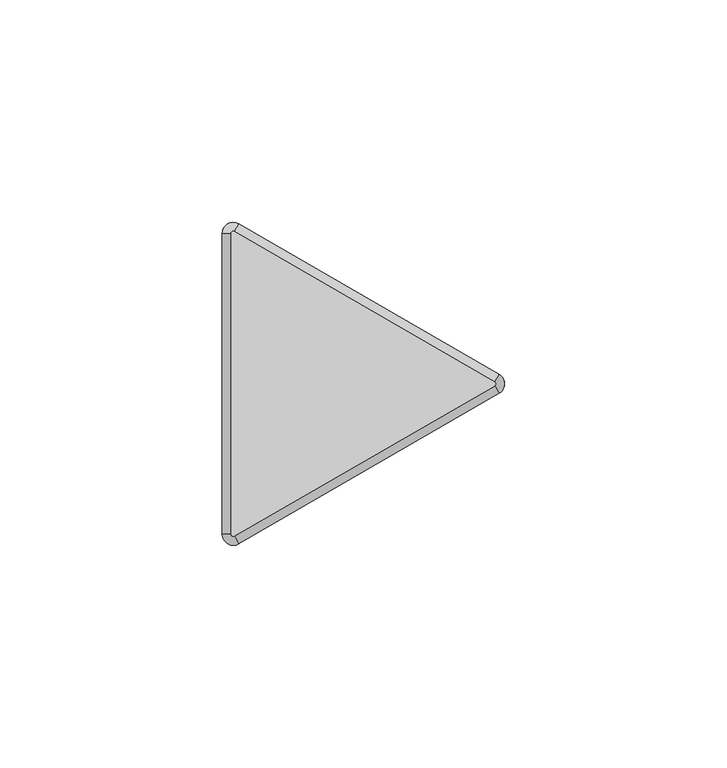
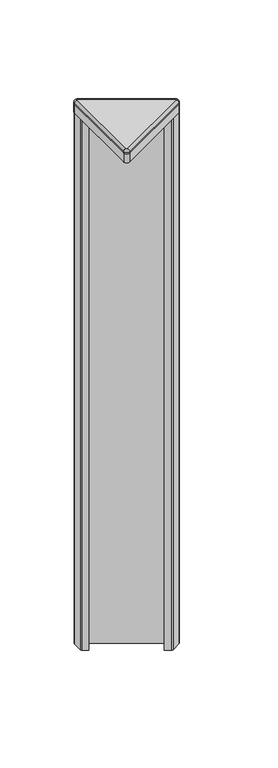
"""IFC4 building model written with IfcOpenShell, lengths in millimetres: furniture geometry, Steelcase - Answer Solution - Panel - 120deg Change-of-Height Trim - Thin : V Corner - 18H for 48H App."""

import ifcopenshell
import ifcopenshell.guid

model = None  # the IFC model being written
_history = None  # IfcOwnerHistory: only IFC2X3 demands one
_inside = {}  # id of a spatial element -> (the spatial element, [elements in it])
_under = {}  # id of a project, library or spatial element -> (it, [spatial elements below it])
_declared = {}  # id of a project -> (the project, [libraries it declares])
_typed = {}  # id of a type object -> (the type object, [elements of that type])
_made_of = {}  # id of a material, layer set ... -> (it, [elements and type objects made of it])


def new_model(schema):
    """Start an empty IFC model of exactly this schema.

    Asked for "IFC4X3", IfcOpenShell would pick the latest addendum, in which some entities
    have other attributes; the version numbers below select the first issue.
    IFC2X3 requires an IfcOwnerHistory on every rooted entity: one is made here for all.
    """
    global model, _history
    if schema == "IFC4X3":
        model = ifcopenshell.file(schema_version=(4, 3, 0, 0))
    else:
        model = ifcopenshell.file(schema=schema)
    _inside.clear()
    _under.clear()
    _declared.clear()
    _typed.clear()
    _made_of.clear()
    _history = None
    if model.schema == "IFC2X3":
        org = make("IfcOrganization", Name="unknown")
        user = make(
            "IfcPersonAndOrganization",
            ThePerson=make("IfcPerson", FamilyName="unknown"),
            TheOrganization=org,
        )
        app = make(
            "IfcApplication",
            ApplicationDeveloper=org,
            Version="unknown",
            ApplicationFullName="unknown",
            ApplicationIdentifier="unknown",
        )
        _history = make(
            "IfcOwnerHistory",
            OwningUser=user,
            OwningApplication=app,
            ChangeAction="ADDED",
            CreationDate=0,
        )
    return model


def make(cls, **values):
    """One entity of the class cls with the attributes given. An attribute that is None is left unset."""
    return model.create_entity(
        cls, **{name: value for name, value in values.items() if value is not None}
    )


def rooted(cls, **values):
    """An entity with a GlobalId (a new one), such as an element, a storey or a relation."""
    return make(cls, GlobalId=ifcopenshell.guid.new(), OwnerHistory=_history, **values)


def si_unit(unit_type, name, prefix=None):
    """IfcSIUnit, for example si_unit("LENGTHUNIT", "METRE", prefix="MILLI")."""
    return make("IfcSIUnit", UnitType=unit_type, Prefix=prefix, Name=name)


def assignment(units):
    """IfcUnitAssignment: the units of a project."""
    return None if units is None else make("IfcUnitAssignment", Units=units)


def point(xyz):
    """IfcCartesianPoint."""
    return None if xyz is None else make("IfcCartesianPoint", Coordinates=xyz)


def direction(xyz):
    """IfcDirection."""
    return None if xyz is None else make("IfcDirection", DirectionRatios=xyz)


def frame(location, z_axis=None, x_axis=None):
    """IfcAxis2Placement3D, a coordinate frame: its origin and axes. An axis left out is left unset."""
    return make(
        "IfcAxis2Placement3D",
        Location=point(location),
        Axis=direction(z_axis),
        RefDirection=direction(x_axis),
    )


def frame_2d(location, x_axis=None):
    """IfcAxis2Placement2D, a coordinate frame in the plane: its origin and x axis."""
    return make(
        "IfcAxis2Placement2D", Location=point(location), RefDirection=direction(x_axis)
    )


def origin():
    """The frame at (0, 0, 0) with its axes left unset."""
    return frame((0.0, 0.0, 0.0))


def place(relative_to, where):
    """IfcLocalPlacement: puts the frame where relative to a parent placement (None: the world)."""
    return make(
        "IfcLocalPlacement", PlacementRelTo=relative_to, RelativePlacement=where
    )


def context(
    kind, dimensions, precision=None, world=None, true_north=None, identifier=None
):
    """IfcGeometricRepresentationContext, for example the 3D "Model" context."""
    return make(
        "IfcGeometricRepresentationContext",
        ContextIdentifier=identifier,
        ContextType=kind,
        CoordinateSpaceDimension=dimensions,
        Precision=precision,
        WorldCoordinateSystem=world,
        TrueNorth=true_north,
    )


def project(units=None, contexts=None):
    """IfcProject with its units and contexts."""
    return rooted(
        "IfcProject",
        Name="project",
        RepresentationContexts=contexts,
        UnitsInContext=assignment(units),
    )


def spatial(cls, under=None, at=None, **own):
    """A site, building, storey or space (cls), placed at a placement, below another one or the project."""
    s = rooted(cls, ObjectPlacement=at, **own)
    if under is not None:
        _under.setdefault(under.id(), (under, []))[1].append(s)
    return s


def polyline(points):
    """IfcPolyline through the points."""
    return make("IfcPolyline", Points=[point(p) for p in points])


def circle_curve(where, radius):
    """IfcCircle in the frame where."""
    return make("IfcCircle", Position=where, Radius=radius)


def ellipse_curve(where, semi_axis1, semi_axis2):
    """IfcEllipse in the frame where."""
    return make(
        "IfcEllipse", Position=where, SemiAxis1=semi_axis1, SemiAxis2=semi_axis2
    )


def trimmed(basis, trim1, trim2, sense, master):
    """IfcTrimmedCurve: the piece of a basis curve between two trims."""
    return make(
        "IfcTrimmedCurve",
        BasisCurve=basis,
        Trim1=trim1,
        Trim2=trim2,
        SenseAgreement=sense,
        MasterRepresentation=master,
    )


def segment(curve, same_sense, transition):
    """IfcCompositeCurveSegment."""
    return make(
        "IfcCompositeCurveSegment",
        Transition=transition,
        SameSense=same_sense,
        ParentCurve=curve,
    )


def composite_curve(segments, self_intersect=None):
    """IfcCompositeCurve: segments joined end to end."""
    return make("IfcCompositeCurve", Segments=segments, SelfIntersect=self_intersect)


def outline(outer, holes=None, kind="AREA"):
    """IfcArbitraryClosedProfileDef: a profile drawn as a closed curve; with holes, ...WithVoids."""
    if holes is None:
        return make("IfcArbitraryClosedProfileDef", ProfileType=kind, OuterCurve=outer)
    return make(
        "IfcArbitraryProfileDefWithVoids",
        ProfileType=kind,
        OuterCurve=outer,
        InnerCurves=holes,
    )


def extrude(swept, where, along, depth):
    """IfcExtrudedAreaSolid: the profile swept, set in the frame where, extruded along a direction by depth."""
    return make(
        "IfcExtrudedAreaSolid",
        SweptArea=swept,
        Position=where,
        ExtrudedDirection=direction(along),
        Depth=depth,
    )


def shape(context_of_items, identifier, shape_type, items):
    """IfcShapeRepresentation: the items that make up one representation, for example the "Body"."""
    return make(
        "IfcShapeRepresentation",
        ContextOfItems=context_of_items,
        RepresentationIdentifier=identifier,
        RepresentationType=shape_type,
        Items=items,
    )


def source(mapping_origin, context_of_items, identifier, shape_type, items):
    """IfcRepresentationMap: a shape defined once, which mapped items show again and again."""
    return make(
        "IfcRepresentationMap",
        MappingOrigin=mapping_origin,
        MappedRepresentation=shape(context_of_items, identifier, shape_type, items),
    )


def transform(
    local_origin,
    x_axis=None,
    y_axis=None,
    z_axis=None,
    scale=None,
    scale2=None,
    scale3=None,
    uniform=True,
):
    """IfcCartesianTransformationOperator3D, or its non-uniform kind. x_axis, y_axis, z_axis: its Axis1, 2, 3."""
    if uniform:
        return make(
            "IfcCartesianTransformationOperator3D",
            Axis1=direction(x_axis),
            Axis2=direction(y_axis),
            LocalOrigin=point(local_origin),
            Scale=scale,
            Axis3=direction(z_axis),
        )
    return make(
        "IfcCartesianTransformationOperator3DnonUniform",
        Axis1=direction(x_axis),
        Axis2=direction(y_axis),
        LocalOrigin=point(local_origin),
        Scale=scale,
        Axis3=direction(z_axis),
        Scale2=scale2,
        Scale3=scale3,
    )


def mapped(mapping_source, mapping_target):
    """IfcMappedItem: shows the shape of a source again, moved by a transform."""
    return make(
        "IfcMappedItem", MappingSource=mapping_source, MappingTarget=mapping_target
    )


def made_of(thing, what):
    """Note that an element or type object is made of a material, layer set ...; save() writes the relation."""
    if what is not None:
        _made_of.setdefault(what.id(), (what, []))[1].append(thing)
    return thing


def element(
    cls,
    number,
    at=None,
    inside=None,
    cuts=None,
    type_object=None,
    material=None,
    context=None,
    identifier="Body",
    shape_type=None,
    held_by="IfcProductDefinitionShape",
    body=None,
    shapes=None,
    **own,
):
    """One element of the class cls, such as IfcWall. Its Tag is "e" and its number.

    at: its placement. inside: the storey or other place that contains it. cuts: it is an
    opening in that element (IfcRelVoidsElement). A single representation is given by context,
    identifier, shape_type and body (its items); several are given by shapes. held_by: the class
    of the entity that holds the representations. save() writes the other relations.
    """
    e = rooted(cls, Tag="e%d" % number, ObjectPlacement=at, **own)
    if body is not None:
        shapes = [shape(context, identifier, shape_type, body)]
    if shapes is not None:
        e.Representation = make(held_by, Representations=shapes)
    if inside is not None:
        _inside.setdefault(inside.id(), (inside, []))[1].append(e)
    if cuts is not None:
        rooted(
            "IfcRelVoidsElement", RelatingBuildingElement=cuts, RelatedOpeningElement=e
        )
    if type_object is not None:
        _typed.setdefault(type_object.id(), (type_object, []))[1].append(e)
    return made_of(e, material)


def aggregate(whole, parts):
    """IfcRelAggregates: a whole, such as a stair, and the parts it consists of."""
    return rooted("IfcRelAggregates", RelatingObject=whole, RelatedObjects=parts)


def save(model, path):
    """Write the relations noted so far, then the file.

    IfcRelAggregates (storeys below a building ...), IfcRelContainedInSpatialStructure (elements
    in a storey), IfcRelDefinesByType, IfcRelAssociatesMaterial and IfcRelDeclares: one each for
    every whole, place, type object, material and project.
    """
    for whole, parts in _under.values():
        aggregate(whole, parts)
    for where, things in _inside.values():
        rooted(
            "IfcRelContainedInSpatialStructure",
            RelatedElements=things,
            RelatingStructure=where,
        )
    for kind, things in _typed.values():
        rooted("IfcRelDefinesByType", RelatedObjects=things, RelatingType=kind)
    for what, things in _made_of.values():
        rooted("IfcRelAssociatesMaterial", RelatedObjects=things, RelatingMaterial=what)
    for by, libraries in _declared.values():
        rooted("IfcRelDeclares", RelatingContext=by, RelatedDefinitions=libraries)
    model.write(path)


def plane_surface(at):
    """IfcPlane: the flat surface through the origin of the frame at, square to its z axis."""
    return make("IfcPlane", Position=at)


def cylinder_surface(at, radius):
    """IfcCylindricalSurface: all points at the distance radius from the z axis of the frame at."""
    return make("IfcCylindricalSurface", Position=at, Radius=radius)


def revolved_surface(curve, axis_point, axis_direction):
    """IfcSurfaceOfRevolution: the curve turned about the line through axis_point along axis_direction."""
    return make(
        "IfcSurfaceOfRevolution",
        SweptCurve=make("IfcArbitraryOpenProfileDef", ProfileType="CURVE", Curve=curve),
        AxisPosition=make("IfcAxis1Placement", Location=point(axis_point), Axis=direction(axis_direction)),
    )


def advanced_brep(points, edges, surfaces, faces):
    """IfcAdvancedBrep: a solid bounded by faces that lie on surfaces and meet in shared edges.

    An edge is (start, end): straight between two places in points (the first is 0);
    or (start, end, curve); or (start, end, curve, False) where it runs against its curve.
    A face is (place in surfaces, loops), or (place, loops, False) where it looks against
    its surface's normal. A loop lists edges by number (the first is 1), with a minus sign
    where the edge is run from its end to its start. The first loop is the outer one.
    """
    corners = [point(p) for p in points]
    vertices = [make("IfcVertexPoint", VertexGeometry=c) for c in corners]
    made = []
    for start, end, *more in edges:
        made.append(
            make(
                "IfcEdgeCurve",
                EdgeStart=vertices[start],
                EdgeEnd=vertices[end],
                EdgeGeometry=more[0] if more else make("IfcPolyline", Points=[corners[start], corners[end]]),
                SameSense=more[1] if len(more) > 1 else True,
            )
        )
    hull = []
    for where, loops, *sense in faces:
        bounds = []
        for j, loop in enumerate(loops):
            ring = [make("IfcOrientedEdge", EdgeElement=made[abs(k) - 1], Orientation=k > 0) for k in loop]
            bounds.append(
                make(
                    "IfcFaceOuterBound" if j == 0 else "IfcFaceBound",
                    Bound=make("IfcEdgeLoop", EdgeList=ring),
                    Orientation=True,
                )
            )
        hull.append(make("IfcAdvancedFace", Bounds=bounds, FaceSurface=surfaces[where], SameSense=sense[0] if sense else True))
    return make("IfcAdvancedBrep", Outer=make("IfcClosedShell", CfsFaces=hull))


def furniture_9107f6f2(model_context):
    return source(origin(), model_context, "Body", "SolidModel", [
        advanced_brep(
        [(-10.518645, -37.3335529, 1223.6628978), (-14.2052101, -35.2051135, 1223.6628978), (-14.2052101, -35.2051135, 1222.7164663), (-10.518645, -37.3335529, 1222.7164663), (-11.46175, -35.7000471, 1225.55), (-12.319, -35.2051135, 1225.55), (-11.46175, -35.7000471, 1222.7164663), (-12.319, -35.2051135, 1222.7164663), (48.0429908, -3.5229767, 1222.7164663), (48.0429908, -3.5229767, 1223.6628978), (47.0998858, -1.8894709, 1225.55), (47.0998858, -1.8894709, 1222.7164663), (48.0429908, 0.733902, 1223.6628978), (48.0429908, 0.733902, 1222.7164663), (47.0998858, -0.8996038, 1225.55), (47.0998858, -0.8996038, 1222.7164663), (-10.518645, 34.5444782, 1222.7164663), (-14.2052101, 32.4160388, 1222.7164663), (-11.46175, 32.9109723, 1222.7164663), (-12.319, 32.4160388, 1222.7164663), (-10.518645, 34.5444782, 1223.6628978), (-11.46175, 32.9109723, 1225.55), (-14.2052101, 32.4160388, 1223.6628978), (-12.319, 32.4160388, 1225.55)],
        [
            (0, 1, circle_curve(frame((-11.7475, -35.2051135, 1223.6628978), z_axis=(0.0, 0.0, -1.0), x_axis=(-1.0, 0.0, 0.0)), 2.4577101)),
            (1, 2),
            (2, 3, circle_curve(frame((-11.7475, -35.2051135, 1222.7164663), z_axis=(0.0, 0.0, 1.0), x_axis=(-1.0, 0.0, 0.0)), 2.4577101)),
            (3, 0),
            (4, 5, circle_curve(frame((-11.7475, -35.2051135, 1225.55), z_axis=(0.0, 0.0, -1.0), x_axis=(-1.0, 0.0, 0.0)), 0.5715)),
            (5, 1, circle_curve(frame((-12.3181076, -35.2051135, 1223.6628978), z_axis=(0.0, -1.0, 0.0), x_axis=(1.0, 0.0, 0.0)), 1.8871024)),
            (0, 4, circle_curve(frame((-11.4621962, -35.6992743, 1223.6628978), z_axis=(-0.8660254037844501, -0.49999999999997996, 0.0), x_axis=(-0.49999999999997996, 0.8660254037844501, 0.0)), 1.8871024)),
            (6, 7, circle_curve(frame((-11.7475, -35.2051135, 1222.7164663), z_axis=(0.0, 0.0, -1.0), x_axis=(-1.0, 0.0, 0.0)), 0.5715)),
            (7, 5),
            (4, 6),
            (3, 8),
            (8, 9),
            (9, 0),
            (9, 10, circle_curve(frame((47.0994396, -1.8886981, 1223.6628978), z_axis=(-0.8660254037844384, -0.5000000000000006, 0.0), x_axis=(-0.5000000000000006, 0.8660254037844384, 0.0)), 1.8871024)),
            (10, 4),
            (10, 11),
            (11, 6),
            (12, 9, circle_curve(frame((46.8141358, -1.3945374, 1223.6628978), z_axis=(0.0, 0.0, -1.0), x_axis=(0.4999999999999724, -0.8660254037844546, 0.0)), 2.4577101)),
            (8, 13, circle_curve(frame((46.8141358, -1.3945374, 1222.7164663), z_axis=(0.0, 0.0, 1.0), x_axis=(0.4999999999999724, -0.8660254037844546, 0.0)), 2.4577101)),
            (13, 12),
            (14, 10, circle_curve(frame((46.8141358, -1.3945374, 1225.55), z_axis=(0.0, 0.0, -1.0), x_axis=(0.4999999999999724, -0.8660254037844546, 0.0)), 0.5715)),
            (12, 14, circle_curve(frame((47.0994396, -0.9003766, 1223.6628978), z_axis=(0.8660254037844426, -0.49999999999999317, 0.0), x_axis=(-0.49999999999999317, -0.8660254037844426, 0.0)), 1.8871024)),
            (15, 11, circle_curve(frame((46.8141358, -1.3945374, 1222.7164663), z_axis=(0.0, 0.0, -1.0), x_axis=(0.4999999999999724, -0.8660254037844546, 0.0)), 0.5715)),
            (14, 15),
            (16, 13),
            (2, 17),
            (17, 16, circle_curve(frame((-11.7475, 32.4160388, 1222.7164663), z_axis=(0.0, 0.0, -1.0), x_axis=(0.500000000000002, 0.8660254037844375, 0.0)), 2.4577101)),
            (15, 18),
            (18, 19, circle_curve(frame((-11.7475, 32.4160388, 1222.7164663), z_axis=(0.0, 0.0, 1.0), x_axis=(0.500000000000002, 0.8660254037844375, 0.0)), 0.5715)),
            (19, 7),
            (16, 20),
            (20, 12),
            (20, 21, circle_curve(frame((-11.4621962, 32.9101995, 1223.6628978), z_axis=(0.8660254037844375, -0.5000000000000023, 0.0), x_axis=(-0.5000000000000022, -0.8660254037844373, 0.0)), 1.8871024)),
            (21, 14),
            (21, 18),
            (22, 20, circle_curve(frame((-11.7475, 32.4160388, 1223.6628978), z_axis=(0.0, 0.0, -1.0), x_axis=(0.500000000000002, 0.8660254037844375, 0.0)), 2.4577101)),
            (17, 22),
            (23, 21, circle_curve(frame((-11.7475, 32.4160388, 1225.55), z_axis=(0.0, 0.0, -1.0), x_axis=(0.500000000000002, 0.8660254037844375, 0.0)), 0.5715)),
            (22, 23, circle_curve(frame((-12.3181076, 32.4160388, 1223.6628978), z_axis=(0.0, 1.0, 0.0), x_axis=(1.0, 0.0, 0.0)), 1.8871024)),
            (23, 19),
            (1, 22),
            (5, 23),
        ],
        [
            cylinder_surface(frame((-11.7475, -35.2051135, 0.0), z_axis=(0.0, 0.0, 1.0), x_axis=(-1.0, 0.0, 0.0)), 2.4577101),
            revolved_surface(trimmed(ellipse_curve(frame((-12.3181076, -35.2051135, 1223.6628978), z_axis=(0.0, 1.0, 0.0), x_axis=(1.0, 0.0, 0.0)), 1.8871024, 1.8871024), [point((-14.2052101, -35.2051135, 1223.6628978))], [point((-12.319, -35.2051135, 1225.55))], True, "CARTESIAN"), (-11.7475, -35.2051135, 0.0), (0.0, 0.0, 1.0)),
            revolved_surface(polyline([(-12.319, -35.2051135, 1225.55), (-12.319, -35.2051135, 1222.7164663)]), (-11.7475, -35.2051135, 0.0), (0.0, 0.0, 1.0)),
            plane_surface(frame((-10.518645, -37.3335529, 1222.7164663), z_axis=(0.500000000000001, -0.8660254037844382, 0.0), x_axis=(0.8660254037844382, 0.500000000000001, 0.0))),
            cylinder_surface(frame((-11.4621962, -35.6992743, 1223.6628978), z_axis=(-0.8660254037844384, -0.5000000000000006, 0.0), x_axis=(-0.5000000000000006, 0.8660254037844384, 0.0)), 1.8871024),
            plane_surface(frame((-11.46175, -35.7000471, 1225.55), z_axis=(-0.500000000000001, 0.8660254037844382, 0.0), x_axis=(0.8660254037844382, 0.500000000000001, 0.0))),
            cylinder_surface(frame((46.8141358, -1.3945374, 0.0), z_axis=(0.0, 0.0, 1.0), x_axis=(0.4999999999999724, -0.8660254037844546, 0.0)), 2.4577101),
            revolved_surface(trimmed(ellipse_curve(frame((47.0994396, -1.8886981, 1223.6628978), z_axis=(-0.8660254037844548, -0.499999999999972, 0.0), x_axis=(-0.499999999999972, 0.8660254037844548, 0.0)), 1.8871024, 1.8871024), [point((48.0429908, -3.5229767, 1223.6628978))], [point((47.0998858, -1.8894709, 1225.55))], True, "CARTESIAN"), (46.8141358, -1.3945374, 0.0), (0.0, 0.0, 1.0)),
            revolved_surface(polyline([(47.09988579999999, -1.8894709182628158, 1225.55), (47.09988579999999, -1.8894709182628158, 1222.7164663)]), (46.8141358, -1.3945374, 0.0), (0.0, 0.0, 1.0)),
            plane_surface(frame((47.0998858, -0.8996038, 1222.7164663), z_axis=(0.0, 0.0, -1.0), x_axis=(-0.866025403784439, 0.49999999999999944, 0.0))),
            plane_surface(frame((48.0429908, 0.733902, 1222.7164663), z_axis=(0.5000000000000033, 0.8660254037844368, 0.0), x_axis=(-0.8660254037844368, 0.5000000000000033, 0.0))),
            cylinder_surface(frame((47.0994396, -0.9003766, 1223.6628978), z_axis=(0.8660254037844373, -0.5000000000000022, 0.0), x_axis=(-0.5000000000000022, -0.8660254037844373, 0.0)), 1.8871024),
            plane_surface(frame((47.0998858, -0.8996038, 1225.55), z_axis=(-0.49999999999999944, -0.866025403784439, 0.0), x_axis=(-0.866025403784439, 0.49999999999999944, 0.0))),
            cylinder_surface(frame((-11.7475, 32.4160388, 0.0), z_axis=(0.0, 0.0, 1.0), x_axis=(0.500000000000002, 0.8660254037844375, 0.0)), 2.4577101),
            revolved_surface(trimmed(ellipse_curve(frame((-11.4621962, 32.9101995, 1223.6628978), z_axis=(0.866025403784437, -0.5000000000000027, 0.0), x_axis=(-0.5000000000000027, -0.866025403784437, 0.0)), 1.8871024, 1.8871024), [point((-10.518645, 34.5444782, 1223.6628978))], [point((-11.46175, 32.9109723, 1225.55))], True, "CARTESIAN"), (-11.7475, 32.4160388, 0.0), (0.0, 0.0, 1.0)),
            revolved_surface(polyline([(-11.461749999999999, 32.91097231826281, 1225.55), (-11.461749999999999, 32.91097231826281, 1222.7164663)]), (-11.7475, 32.4160388, 0.0), (0.0, 0.0, 1.0)),
            plane_surface(frame((-14.2052101, 32.4160388, 1222.7164663), z_axis=(-1.0, 0.0, 0.0), x_axis=(0.0, -1.0, 0.0))),
            cylinder_surface(frame((-12.3181076, 32.4160388, 1223.6628978), z_axis=(0.0, 1.0, 0.0), x_axis=(1.0, 0.0, 0.0)), 1.8871024),
            plane_surface(frame((-12.319, 32.4160388, 1225.55), z_axis=(1.0, 0.0, 0.0), x_axis=(0.0, -1.0, 0.0))),
        ],
        [
            (0, [[1, 2, 3, 4]]),
            (1, [[5, 6, -1, 7]]),
            (2, [[8, 9, -5, 10]]),
            (3, [[-4, 11, 12, 13]]),
            (4, [[-7, -13, 14, 15]]),
            (5, [[-10, -15, 16, 17]]),
            (6, [[18, -12, 19, 20]]),
            (7, [[21, -14, -18, 22]]),
            (8, [[23, -16, -21, 24]]),
            (9, [[25, -19, -11, -3, 26, 27], [-8, -17, -23, 28, 29, 30]]),
            (10, [[-20, -25, 31, 32]]),
            (11, [[-22, -32, 33, 34]]),
            (12, [[-24, -34, 35, -28]]),
            (13, [[36, -31, -27, 37]]),
            (14, [[38, -33, -36, 39]]),
            (15, [[-29, -35, -38, 40]]),
            (16, [[-37, -26, -2, 41]]),
            (17, [[-39, -41, -6, 42]]),
            (18, [[-40, -42, -9, -30]]),
        ],
    ),
        extrude(outline(composite_curve([segment(trimmed(circle_curve(frame_2d((46.8261011, -1.3945374)), 0.5655173), [point((47.1088598, -0.904785))], [point((47.1088598, -1.8842897))], False, "CARTESIAN"), True, "CONTINUOUS"), segment(polyline([(47.1088598, -1.8842897), (-11.4505119, -35.6935587)]), True, "CONTINUOUS"), segment(trimmed(circle_curve(frame_2d((-11.7400079, -35.1921369)), 0.5789921), [point((-11.4505119, -35.6935587))], [point((-12.319, -35.1921369))], False, "CARTESIAN"), True, "CONTINUOUS"), segment(polyline([(-12.319, -35.1921369), (-12.319, 32.3985888)]), True, "CONTINUOUS"), segment(trimmed(circle_curve(frame_2d((-11.7374252, 32.3985888)), 0.5815748), [point((-12.319, 32.3985888))], [point((-11.4466378, 32.9022473))], False, "CARTESIAN"), True, "CONTINUOUS"), segment(polyline([(-11.4466378, 32.9022473), (47.1088598, -0.904785)]), True, "CONTINUOUS")], self_intersect=False)), frame((0.0, 0.0, 1222.7164663), z_axis=(0.0, 0.0, 1.0), x_axis=(1.0, 0.0, 0.0)), (0.0, 0.0, 1.0), 2.8335337),
        extrude(outline(composite_curve([segment(trimmed(circle_curve(frame_2d((47.9608454, -1.3945374)), 1.2935425), [point((48.6076166, -0.2742967))], [point((48.6076166, -2.514778))], False, "CARTESIAN"), True, "CONTINUOUS"), segment(polyline([(48.6076166, -2.514778), (41.722656, -6.4898119)]), True, "CONTINUOUS"), segment(trimmed(circle_curve(frame_2d((41.0991304, -5.4098338)), 1.2470513), [point((41.722656, -6.4898119))], [point((40.4756048, -6.4898119))], False, "CARTESIAN"), True, "CONTINUOUS"), segment(polyline([(40.4756048, -6.4898119), (36.3239304, -4.0928416), (36.7811304, -3.300948), (41.0991304, -5.7939464), (47.3502407, -2.1848662)]), True, "CONTINUOUS"), segment(trimmed(circle_curve(frame_2d((46.8939441, -1.3945374)), 0.9125932), [point((47.3502407, -2.1848662))], [point((47.3502407, -0.6042085))], True, "CARTESIAN"), True, "CONTINUOUS"), segment(polyline([(47.3502407, -0.6042085), (-11.3312768, 33.2755814)]), True, "CONTINUOUS"), segment(trimmed(circle_curve(frame_2d((-11.7875179, 32.4853487)), 0.9124821), [point((-11.3312768, 33.2755814))], [point((-12.7, 32.4853487))], True, "CARTESIAN"), True, "CONTINUOUS"), segment(polyline([(-12.7, 32.4853487), (-12.7, 25.266996), (-8.382, 22.7739975), (-8.8392, 21.9821039), (-12.9583282, 24.3602837)]), True, "CONTINUOUS"), segment(trimmed(circle_curve(frame_2d((-12.3022565, 25.4966333)), 1.3121435), [point((-12.9583282, 24.3602837))], [point((-13.6144, 25.4966333))], False, "CARTESIAN"), True, "CONTINUOUS"), segment(polyline([(-13.6144, 25.4966333), (-13.6144, 33.3957138)]), True, "CONTINUOUS"), segment(trimmed(circle_curve(frame_2d((-12.3131174, 33.3957138)), 1.3012826), [point((-13.6144, 33.3957138))], [point((-11.6624761, 34.5226576))], False, "CARTESIAN"), True, "CONTINUOUS"), segment(polyline([(-11.6624761, 34.5226576), (48.6076166, -0.2742967)]), True, "CONTINUOUS")], self_intersect=False)), frame((0.0, 0.0, 768.35), z_axis=(0.0, 0.0, 1.0), x_axis=(1.0, 0.0, 0.0)), (0.0, 0.0, 1.0), 447.04),
        extrude(outline(composite_curve([segment(trimmed(circle_curve(frame_2d((46.8140443, -1.3945374)), 2.4577558), [point((48.0429222, 0.7339416))], [point((48.0429222, -3.5230163))], False, "CARTESIAN"), True, "CONTINUOUS"), segment(polyline([(48.0429222, -3.5230163), (-10.518058, -37.333214)]), True, "CONTINUOUS"), segment(trimmed(circle_curve(frame_2d((-11.7471087, -35.2044357)), 2.4581014), [point((-10.518058, -37.333214))], [point((-14.2052101, -35.2044357))], False, "CARTESIAN"), True, "CONTINUOUS"), segment(polyline([(-14.2052101, -35.2044357), (-14.2052101, 32.4160388)]), True, "CONTINUOUS"), segment(trimmed(circle_curve(frame_2d((-11.7475, 32.4160388)), 2.4577101), [point((-14.2052101, 32.4160388))], [point((-10.518645, 34.5444782))], False, "CARTESIAN"), True, "CONTINUOUS"), segment(polyline([(-10.518645, 34.5444782), (48.0429222, 0.7339416)]), True, "CONTINUOUS")], self_intersect=False)), frame((0.0, 0.0, 1215.39), z_axis=(0.0, 0.0, 1.0), x_axis=(1.0, 0.0, 0.0)), (0.0, 0.0, 1.0), 7.3264663),
    ])


if __name__ == "__main__":
    model = new_model("IFC4")
    model_context = context("Model", 3, world=origin())
    ifc_project = project(units=[si_unit("LENGTHUNIT", "METRE", prefix="MILLI")], contexts=[model_context])
    site = spatial("IfcSite", under=ifc_project)
    building = spatial("IfcBuilding", under=site)
    placement = place(None, origin())
    furniture_shape = furniture_9107f6f2(model_context)
    element("IfcFurniture", 1, ObjectType="Steelcase - Answer Solution - Panel - 120deg Change-of-Height Trim - Thin : V Corner - 18H for 48H App", at=placement, inside=building, context=model_context, shape_type="MappedRepresentation", body=[
        mapped(furniture_shape, transform((0.0, 0.0, 0.0), x_axis=(1.0, 0.0, 0.0), y_axis=(0.0, 1.0, 0.0), z_axis=(0.0, 0.0, 1.0))),
    ])
    save(model, "model.ifc")
